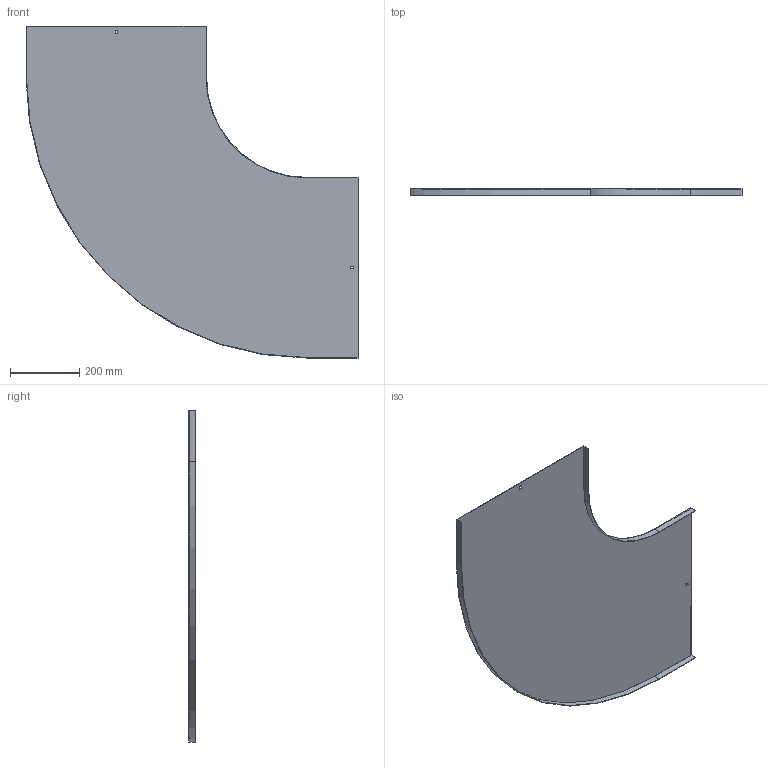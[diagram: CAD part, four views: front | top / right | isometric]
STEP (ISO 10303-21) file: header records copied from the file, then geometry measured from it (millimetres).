
FILE_DESCRIPTION (( 'STEP AP214' ), '1' );
FILE_NAME ('10N3P500.step', '2025-02-21T13:36:42', ( '' ), ( '' ), 'SwSTEP 2.0', 'SolidWorks 2023', '' );
FILE_SCHEMA (( 'AUTOMOTIVE_DESIGN' ));
Length unit declared in the file: millimetre
Products named in the file (1): 10N3P500
Bounding box: 961.5 x 20 x 961.5 mm (x, y, z)
Volume: 977532.4 mm3; surface area: 1308641.4 mm2
Topology: 1 solids, 1 shells, 26 faces, 72 edges, 48 vertices
Faces by surface type: plane 22, cylinder 4
Entity records: 855 total; most frequent: CARTESIAN_POINT 147, ORIENTED_EDGE 144, DIRECTION 134, EDGE_CURVE 72, VECTOR 64, LINE 64, VERTEX_POINT 48, AXIS2_PLACEMENT_3D 35
